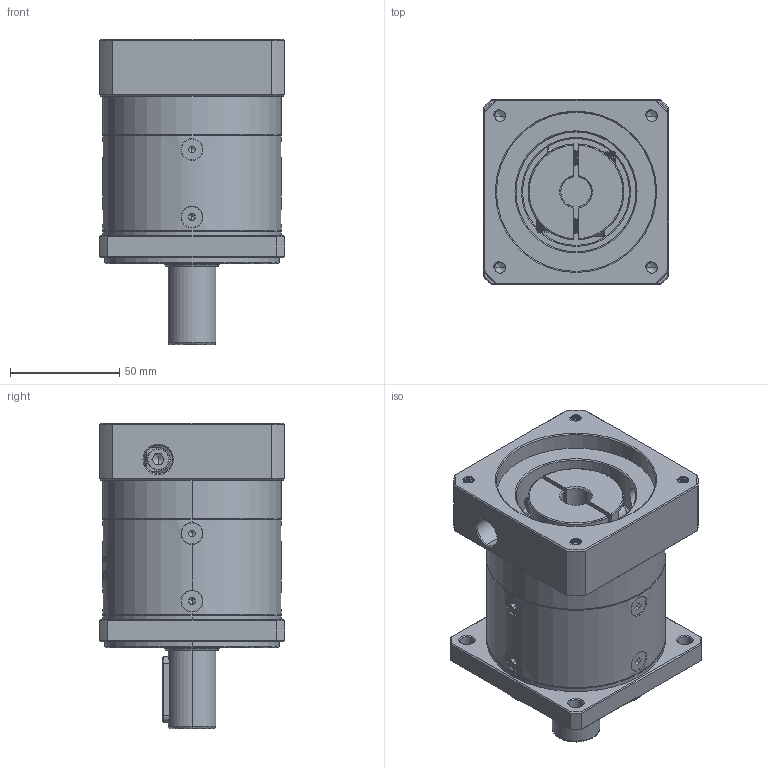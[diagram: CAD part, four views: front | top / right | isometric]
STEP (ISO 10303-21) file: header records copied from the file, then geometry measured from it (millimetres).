
FILE_DESCRIPTION (( 'STEP AP214' ), '1' );
FILE_NAME ('ZF80-D22-L1-14-73-69.5X69.5-M6.step', '2022-05-08T09:17:02', ( '' ), ( 'Microsoft' ), 'SwSTEP 2.0', 'SolidWorks 2016', '' );
FILE_SCHEMA (( 'AUTOMOTIVE_DESIGN' ));
Length unit declared in the file: millimetre
Products named in the file (1): ZF80-D22-L1-14-73-69.5X69.5-M6
Bounding box: 85 x 85 x 140 mm (x, y, z)
Volume: 545569.4 mm3; surface area: 89214.5 mm2
Topology: 13 solids, 13 shells, 1979 faces, 5121 edges, 3236 vertices
Faces by surface type: plane 896, cylinder 408, cone 338, bspline 320, torus 17
Entity records: 107784 total; most frequent: CARTESIAN_POINT 41336, ORIENTED_EDGE 10182, DIRECTION 8028, EDGE_CURVE 5091, VERTEX_POINT 3236, VECTOR 2762, LINE 2762, AXIS2_PLACEMENT_3D 2633
